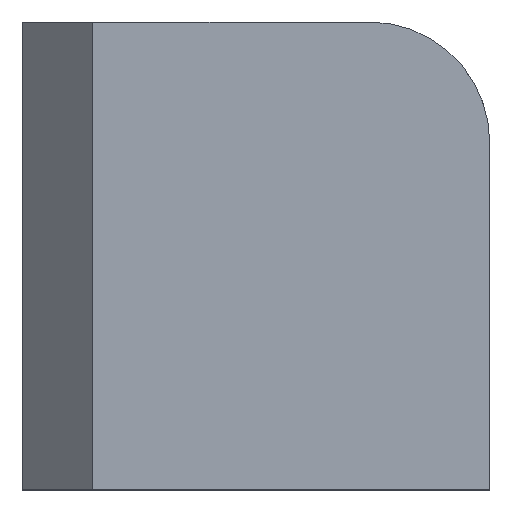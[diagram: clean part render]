
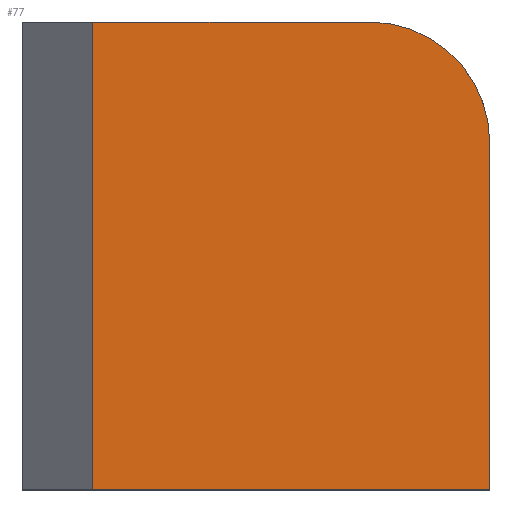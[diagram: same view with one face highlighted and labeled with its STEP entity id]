
A CAD part, top view. The second image highlights one B-rep face of the part: STEP entity #77.
In plain terms, the highlighted planar face has unit normal (0, 0, 1).
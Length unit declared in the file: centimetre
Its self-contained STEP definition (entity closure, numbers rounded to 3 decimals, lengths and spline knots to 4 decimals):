
#3 = VECTOR ( 'NONE', #728, 100. ) ;
#10 = CARTESIAN_POINT ( 'NONE',  ( 0., 1000., 1000. ) ) ;
#61 = EDGE_CURVE ( 'NONE', #510, #616, #691, .T. ) ;
#77 = ADVANCED_FACE ( 'NONE', ( #700 ), #192, .T. ) ;
#80 = LINE ( 'NONE', #10, #86 ) ;
#86 = VECTOR ( 'NONE', #420, 100. ) ;
#99 = EDGE_CURVE ( 'NONE', #676, #109, #723, .T. ) ;
#107 = EDGE_CURVE ( 'NONE', #109, #510, #80, .T. ) ;
#109 = VERTEX_POINT ( 'NONE', #132 ) ;
#111 = CARTESIAN_POINT ( 'NONE',  ( 1000., 0., 1000. ) ) ;
#122 = ORIENTED_EDGE ( 'NONE', *, *, #139, .T. ) ;
#132 = CARTESIAN_POINT ( 'NONE',  ( 742.7807, 1000., 1000. ) ) ;
#139 = EDGE_CURVE ( 'NONE', #341, #676, #555, .T. ) ;
#159 = CARTESIAN_POINT ( 'NONE',  ( 150.4988, 1000., 1000. ) ) ;
#192 = PLANE ( 'NONE',  #443 ) ;
#206 = CARTESIAN_POINT ( 'NONE',  ( 1000., 1000., 1000. ) ) ;
#211 = DIRECTION ( 'NONE',  ( 0., 1., 0. ) ) ;
#279 = VECTOR ( 'NONE', #211, 100. ) ;
#291 = ORIENTED_EDGE ( 'NONE', *, *, #99, .T. ) ;
#306 = CARTESIAN_POINT ( 'NONE',  ( 0., 0., 1000. ) ) ;
#311 = CARTESIAN_POINT ( 'NONE',  ( 1000., 742.7807, 1000. ) ) ;
#341 = VERTEX_POINT ( 'NONE', #111 ) ;
#358 = DIRECTION ( 'NONE',  ( 1., 0., 0. ) ) ;
#372 = ORIENTED_EDGE ( 'NONE', *, *, #61, .T. ) ;
#375 = DIRECTION ( 'NONE',  ( 1., 0., 0. ) ) ;
#409 = AXIS2_PLACEMENT_3D ( 'NONE', #544, #475, #358 ) ;
#420 = DIRECTION ( 'NONE',  ( -1., 0., 0. ) ) ;
#432 = DIRECTION ( 'NONE',  ( 0., 0., 1. ) ) ;
#443 = AXIS2_PLACEMENT_3D ( 'NONE', #306, #432, #375 ) ;
#475 = DIRECTION ( 'NONE',  ( 0., 0., 1. ) ) ;
#480 = CARTESIAN_POINT ( 'NONE',  ( 150.4988, 0., 1000. ) ) ;
#493 = ORIENTED_EDGE ( 'NONE', *, *, #502, .T. ) ;
#502 = EDGE_CURVE ( 'NONE', #616, #341, #614, .T. ) ;
#507 = ORIENTED_EDGE ( 'NONE', *, *, #107, .T. ) ;
#510 = VERTEX_POINT ( 'NONE', #159 ) ;
#544 = CARTESIAN_POINT ( 'NONE',  ( 742.7807, 742.7807, 1000. ) ) ;
#555 = LINE ( 'NONE', #206, #279 ) ;
#558 = CARTESIAN_POINT ( 'NONE',  ( 0., 0., 1000. ) ) ;
#567 = EDGE_LOOP ( 'NONE', ( #122, #291, #507, #372, #493 ) ) ;
#614 = LINE ( 'NONE', #558, #3 ) ;
#616 = VERTEX_POINT ( 'NONE', #659 ) ;
#649 = DIRECTION ( 'NONE',  ( 0., -1., 0. ) ) ;
#659 = CARTESIAN_POINT ( 'NONE',  ( 150.4988, 0., 1000. ) ) ;
#666 = VECTOR ( 'NONE', #649, 100. ) ;
#676 = VERTEX_POINT ( 'NONE', #311 ) ;
#691 = LINE ( 'NONE', #480, #666 ) ;
#700 = FACE_OUTER_BOUND ( 'NONE', #567, .T. ) ;
#723 = CIRCLE ( 'NONE', #409, 257.2193 ) ;
#728 = DIRECTION ( 'NONE',  ( 1., 0., 0. ) ) ;
